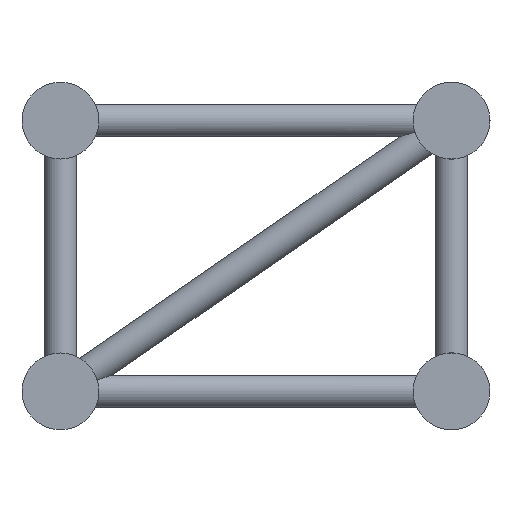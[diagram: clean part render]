
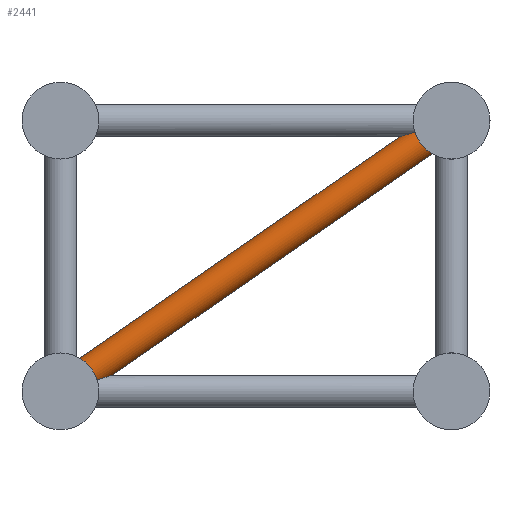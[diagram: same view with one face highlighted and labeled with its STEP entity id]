
A CAD part, left-side view. The second image highlights one B-rep face of the part: STEP entity #2441.
In plain terms, the highlighted cylindrical face has radius 12.5 mm (diameter 25 mm), a full revolution.
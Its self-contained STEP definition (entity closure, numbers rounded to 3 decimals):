
#26=ELLIPSE('',#2673,41.923,12.5);
#27=ELLIPSE('',#2674,41.923,12.5);
#96=FACE_BOUND('',#635,.T.);
#397=FACE_OUTER_BOUND('',#634,.T.);
#634=EDGE_LOOP('',(#1776,#1777));
#635=EDGE_LOOP('',(#1778,#1779));
#886=CIRCLE('',#2667,12.5);
#887=CIRCLE('',#2671,12.5);
#1175=VERTEX_POINT('',#5510);
#1177=VERTEX_POINT('',#5514);
#1179=VERTEX_POINT('',#5519);
#1181=VERTEX_POINT('',#5523);
#1395=EDGE_CURVE('',#1177,#1175,#886,.T.);
#1399=EDGE_CURVE('',#1181,#1179,#887,.T.);
#1400=EDGE_CURVE('',#1175,#1177,#26,.T.);
#1401=EDGE_CURVE('',#1179,#1181,#27,.T.);
#1776=ORIENTED_EDGE('',*,*,#1400,.F.);
#1777=ORIENTED_EDGE('',*,*,#1395,.F.);
#1778=ORIENTED_EDGE('',*,*,#1401,.F.);
#1779=ORIENTED_EDGE('',*,*,#1399,.F.);
#2168=CYLINDRICAL_SURFACE('',#2672,12.5);
#2441=ADVANCED_FACE('',(#397,#96),#2168,.T.);
#2667=AXIS2_PLACEMENT_3D('',#5516,#3126,#3127);
#2671=AXIS2_PLACEMENT_3D('',#5525,#3135,#3136);
#2672=AXIS2_PLACEMENT_3D('',#5526,#3137,#3138);
#2673=AXIS2_PLACEMENT_3D('',#5527,#3139,#3140);
#2674=AXIS2_PLACEMENT_3D('',#5528,#3141,#3142);
#3126=DIRECTION('center_axis',(0.,0.822,-0.569));
#3127=DIRECTION('ref_axis',(1.,0.,0.));
#3135=DIRECTION('center_axis',(0.,-0.822,
0.569));
#3136=DIRECTION('ref_axis',(1.,0.,0.));
#3137=DIRECTION('center_axis',(0.,-0.822,
0.569));
#3138=DIRECTION('ref_axis',(1.,0.,0.));
#3139=DIRECTION('center_axis',(0.,-0.298,
-0.955));
#3140=DIRECTION('ref_axis',(0.,0.955,-0.298));
#3141=DIRECTION('center_axis',(0.,0.298,
0.955));
#3142=DIRECTION('ref_axis',(0.,0.955,-0.298));
#5510=CARTESIAN_POINT('',(102.177,273.669,-199.087));
#5514=CARTESIAN_POINT('',(82.823,273.669,-199.087));
#5516=CARTESIAN_POINT('Origin',(92.5,278.173,-192.581));
#5519=CARTESIAN_POINT('',(102.177,25.331,-7.913));
#5523=CARTESIAN_POINT('',(82.823,25.331,-7.913));
#5525=CARTESIAN_POINT('Origin',(92.5,20.827,-14.419));
#5526=CARTESIAN_POINT('Origin',(92.5,278.173,-192.581));
#5527=CARTESIAN_POINT('Origin',(92.5,299.,-207.));
#5528=CARTESIAN_POINT('Origin',(92.5,0.,
0.));
